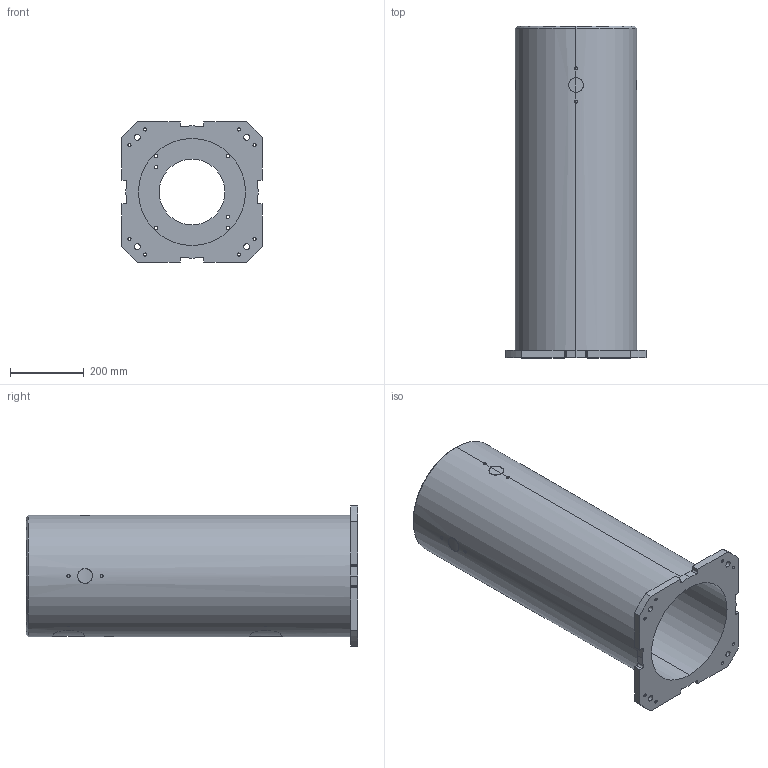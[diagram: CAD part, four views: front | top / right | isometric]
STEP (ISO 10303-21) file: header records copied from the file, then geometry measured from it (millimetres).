
FILE_DESCRIPTION (( 'STEP AP214' ), '1' );
FILE_NAME ('E-900.STEP', '2024-01-19T10:24:16', ( '' ), ( '' ), 'SwSTEP 2.0', 'SolidWorks 2022', '' );
FILE_SCHEMA (( 'AUTOMOTIVE_DESIGN' ));
Length unit declared in the file: millimetre
Products named in the file (1): E-900
Bounding box: 380 x 900 x 380 mm (x, y, z)
Volume: 19235372.6 mm3; surface area: 1988035.9 mm2
Topology: 1 solids, 1 shells, 167 faces, 457 edges, 304 vertices
Faces by surface type: cylinder 113, plane 28, bspline 24, cone 2
Entity records: 12428 total; most frequent: CARTESIAN_POINT 7721, ORIENTED_EDGE 914, DIRECTION 717, EDGE_CURVE 457, VERTEX_POINT 304, AXIS2_PLACEMENT_3D 270, EDGE_LOOP 217, LINE 177
